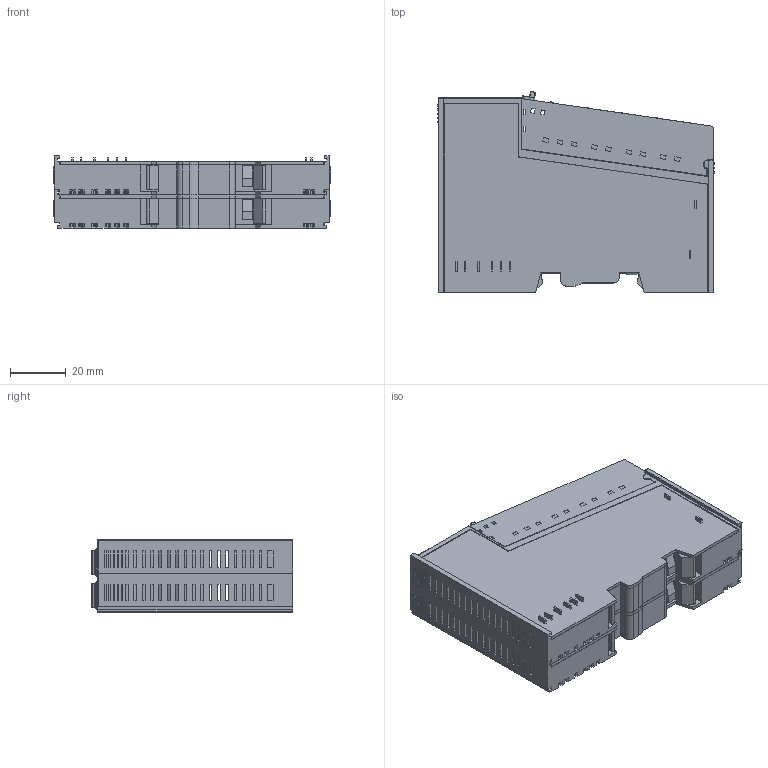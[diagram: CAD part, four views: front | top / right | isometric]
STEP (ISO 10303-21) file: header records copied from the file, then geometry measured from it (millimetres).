
FILE_DESCRIPTION((''),'2;1');
FILE_NAME('ST-2748-MODULE_ASSY_ASM','2018-07-12T',('choi soo ho'),(''),'CREO PARAMETRIC BY PTC INC, 2016130','CREO PARAMETRIC BY PTC INC, 2016130','');
FILE_SCHEMA(('CONFIG_CONTROL_DESIGN'));
Products named in the file (20): FNIO_IO8_BODY_34; IO8_COVER_6; TRB_4; TB_BOTTON_4; FNIO_RTB_ASM_1_ASM; FNIO_1_DINRAIL_LOCKER_LEVER_4; FNIO_1_DINRAIL_LOCKER_L_2; FNIO_1_FG_CONTACTOR_XX_3; FNIO_IO8_RTB_ASM_11_ASM; FNIO_IO8_BODY_35; IO8_COVER_7; TRB_5; TB_BOTTON_6; FNIO_RTB_ASM_2_ASM; FNIO_1_DINRAIL_LOCKER_LEVER_5; FNIO_1_DINRAIL_LOCKER_L_3; FNIO_1_FG_CONTACTOR_XX_4; FNIO_IO8_RTB_ASM_12_ASM; BOX_ST_2748IO_WINDOW_LABEL; ST-2748-MODULE_ASSY_ASM
Assembly tree (35 placements, depth 4):
  ST-2748-MODULE_ASSY_ASM
    FNIO_IO8_RTB_ASM_11_ASM
      FNIO_IO8_BODY_34
      IO8_COVER_6
      FNIO_RTB_ASM_1_ASM
        TRB_4
        TB_BOTTON_4  x8
      FNIO_1_DINRAIL_LOCKER_LEVER_4
      FNIO_1_DINRAIL_LOCKER_L_2  x2
      FNIO_1_FG_CONTACTOR_XX_3
    FNIO_IO8_RTB_ASM_12_ASM
      FNIO_IO8_BODY_35
      IO8_COVER_7
      FNIO_RTB_ASM_2_ASM
        TRB_5
        TB_BOTTON_6  x8
      FNIO_1_DINRAIL_LOCKER_LEVER_5
      FNIO_1_DINRAIL_LOCKER_L_3  x2
      FNIO_1_FG_CONTACTOR_XX_4
    BOX_ST_2748IO_WINDOW_LABEL
Bounding box: 99.8 x 72.26 x 26.1 mm (x, y, z)
Volume: 56071.3 mm3; surface area: 87977.9 mm2
Topology: 31 solids, 31 shells, 4278 faces, 11750 edges, 7379 vertices
Faces by surface type: plane 3178, cylinder 823, sphere 201, torus 42, cone 32, bspline 2
Entity records: 109335 total; most frequent: CARTESIAN_POINT 19622, ORIENTED_EDGE 19126, DIRECTION 17733, EDGE_CURVE 9563, VECTOR 8209, LINE 8209, VERTEX_POINT 6223, AXIS2_PLACEMENT_3D 4762
